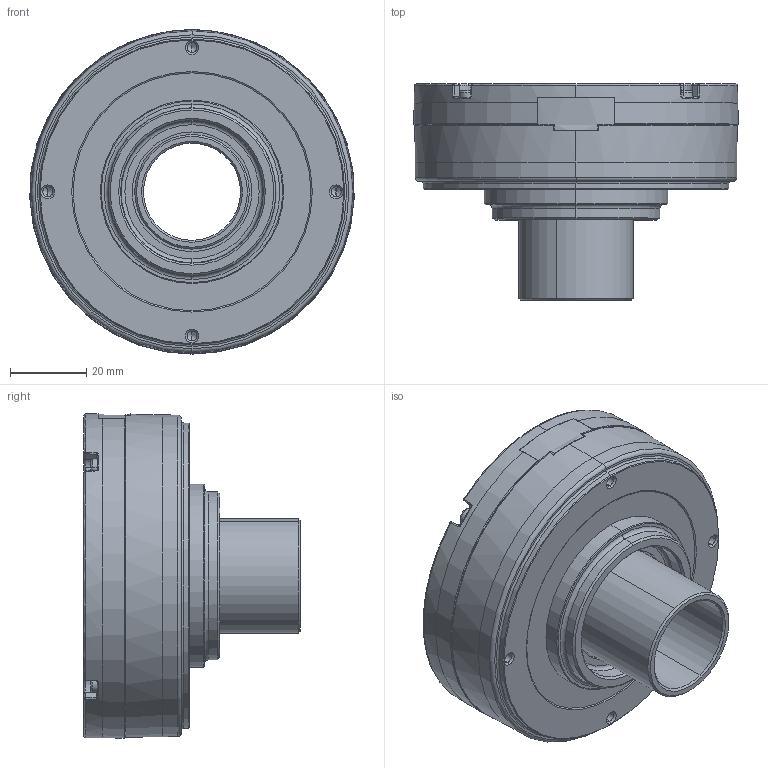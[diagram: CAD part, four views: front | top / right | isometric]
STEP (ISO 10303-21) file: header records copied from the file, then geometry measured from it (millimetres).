
FILE_DESCRIPTION (( 'STEP AP203' ), '1' );
FILE_NAME ('PMBA-50JHWC.STEP', '2021-11-08T06:31:35', ( '' ), ( '' ), 'SwSTEP 2.0', 'SolidWorks 2018', '' );
FILE_SCHEMA (( 'CONFIG_CONTROL_DESIGN' ));
Length unit declared in the file: millimetre
Products named in the file (6): XE-2021-0988-xx(グロメット); XE-2020-3499-xx(回転子軸); PMBA-50JHWC; XE-2021-0776-01(ブラケット F(加工)); XE-2021-0779-02(ブラケット R(加工)); 601-1101-00(組立ねじ)
Assembly tree (8 placements, depth 2):
  PMBA-50JHWC
    XE-2021-0776-01(ブラケット F(加工))
    XE-2021-0779-02(ブラケット R(加工))
    XE-2020-3499-xx(回転子軸)
    XE-2021-0988-xx(グロメット)
    601-1101-00(組立ねじ)  x4
Bounding box: 84.93 x 56.6 x 84.88 mm (x, y, z)
Volume: 90983 mm3; surface area: 50783.8 mm2
Topology: 8 solids, 8 shells, 442 faces, 1055 edges, 629 vertices
Faces by surface type: cone 128, plane 125, cylinder 77, bspline 55, torus 53, sphere 4
Entity records: 13688 total; most frequent: CARTESIAN_POINT 4649, DIRECTION 1772, ORIENTED_EDGE 1742, EDGE_CURVE 871, AXIS2_PLACEMENT_3D 752, VERTEX_POINT 527, CIRCLE 420, EDGE_LOOP 412
